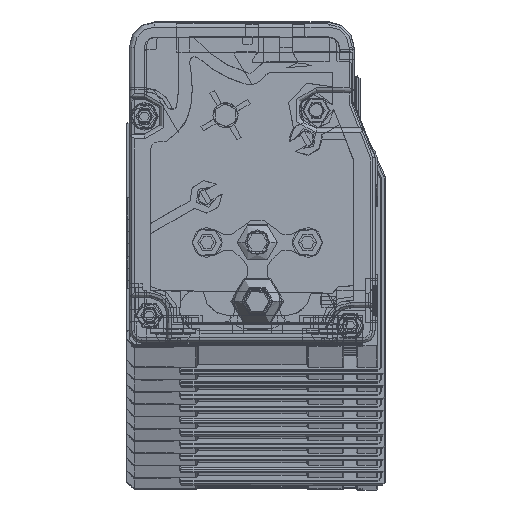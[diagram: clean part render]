
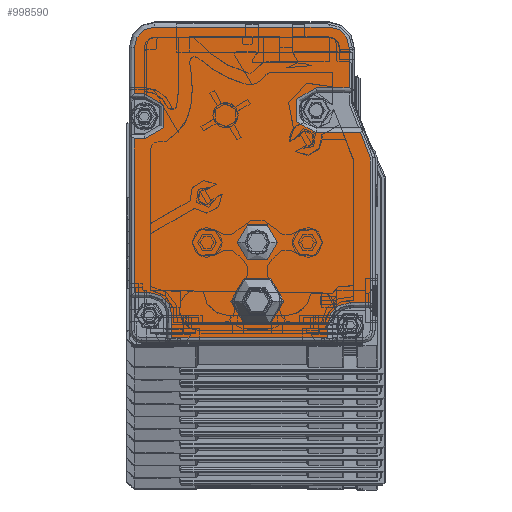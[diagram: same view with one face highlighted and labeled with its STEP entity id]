
A CAD part, top view. The second image highlights one B-rep face of the part: STEP entity #998590.
In plain terms, the highlighted planar face has unit normal (0, 0, 1).
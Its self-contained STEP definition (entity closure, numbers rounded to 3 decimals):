
#996480=CARTESIAN_POINT('',(-20.265,1.758,
4772.39));
#996490=DIRECTION('',(0.,0.,-1.));
#996500=DIRECTION('',(-1.,0.,0.));
#996510=AXIS2_PLACEMENT_3D('',#996480,#996490,#996500);
#996520=PLANE('',#996510);
#996530=CARTESIAN_POINT('',(-44.056,10.421,
4772.39));
#996540=DIRECTION('',(0.,0.,-1.));
#996550=DIRECTION('',(-1.,0.,0.));
#996560=AXIS2_PLACEMENT_3D('',#996530,#996540,#996550);
#996570=CIRCLE('',#996560,5.);
#996580=CARTESIAN_POINT('',(-49.056,10.421,
4772.39));
#996590=VERTEX_POINT('',#996580);
#996600=CARTESIAN_POINT('',(-39.056,10.421,
4772.39));
#996610=VERTEX_POINT('',#996600);
#996620=EDGE_CURVE('',#996590,#996610,#996570,.T.);
#996630=ORIENTED_EDGE('',*,*,#996620,.T.);
#996640=EDGE_CURVE('',#996610,#996590,#996570,.T.);
#996650=ORIENTED_EDGE('',*,*,#996640,.T.);
#996660=EDGE_LOOP('',(#996650,#996630));
#996670=FACE_BOUND('',#996660,.T.);
#996680=CARTESIAN_POINT('',(-44.059,22.124,
4772.39));
#996690=DIRECTION('',(0.,0.,1.));
#996700=DIRECTION('',(-1.,0.,0.));
#996710=AXIS2_PLACEMENT_3D('',#996680,#996690,#996700);
#996720=CIRCLE('',#996710,4.);
#996730=CARTESIAN_POINT('',(-40.059,22.124,
4772.39));
#996740=VERTEX_POINT('',#996730);
#996750=CARTESIAN_POINT('',(-48.059,22.124,
4772.39));
#996760=VERTEX_POINT('',#996750);
#996770=EDGE_CURVE('',#996740,#996760,#996720,.T.);
#996780=ORIENTED_EDGE('',*,*,#996770,.F.);
#996790=EDGE_CURVE('',#996760,#996740,#996720,.T.);
#996800=ORIENTED_EDGE('',*,*,#996790,.F.);
#996810=EDGE_LOOP('',(#996800,#996780));
#996820=FACE_BOUND('',#996810,.T.);
#996830=CARTESIAN_POINT('',(-61.059,2.124,
4772.39));
#996840=DIRECTION('',(0.,-1.,0.));
#996850=VECTOR('',#996840,1.);
#996860=LINE('',#996830,#996850);
#996870=CARTESIAN_POINT('',(-61.059,7.624,
4772.39));
#996880=VERTEX_POINT('',#996870);
#996890=CARTESIAN_POINT('',(-61.059,3.124,
4772.39));
#996900=VERTEX_POINT('',#996890);
#996910=EDGE_CURVE('',#996880,#996900,#996860,.T.);
#996920=ORIENTED_EDGE('',*,*,#996910,.T.);
#996930=CARTESIAN_POINT('',(-65.559,7.624,
4772.39));
#996940=DIRECTION('',(0.,0.,-1.));
#996950=DIRECTION('',(-1.,0.,0.));
#996960=AXIS2_PLACEMENT_3D('',#996930,#996940,#996950);
#996970=CIRCLE('',#996960,4.5);
#996980=CARTESIAN_POINT('',(-65.559,12.124,
4772.39));
#996990=VERTEX_POINT('',#996980);
#997000=EDGE_CURVE('',#996990,#996880,#996970,.T.);
#997010=ORIENTED_EDGE('',*,*,#997000,.T.);
#997020=CARTESIAN_POINT('',(-20.559,12.124,
4772.39));
#997030=DIRECTION('',(1.,0.,0.));
#997040=VECTOR('',#997030,1.);
#997050=LINE('',#997020,#997040);
#997060=CARTESIAN_POINT('',(-68.559,12.124,
4772.39));
#997070=VERTEX_POINT('',#997060);
#997080=EDGE_CURVE('',#997070,#996990,#997050,.T.);
#997090=ORIENTED_EDGE('',*,*,#997080,.T.);
#997100=CARTESIAN_POINT('',(-68.559,2.124,
4772.39));
#997110=DIRECTION('',(0.,-1.,0.));
#997120=VECTOR('',#997110,1.);
#997130=LINE('',#997100,#997120);
#997140=CARTESIAN_POINT('',(-68.559,42.727,
4772.39));
#997150=VERTEX_POINT('',#997140);
#997160=EDGE_CURVE('',#997150,#997070,#997130,.T.);
#997170=ORIENTED_EDGE('',*,*,#997160,.T.);
#997180=CARTESIAN_POINT('',(-20.559,42.727,
4772.39));
#997190=DIRECTION('',(-1.,0.,0.));
#997200=VECTOR('',#997190,1.);
#997210=LINE('',#997180,#997200);
#997220=CARTESIAN_POINT('',(-66.559,42.727,
4772.39));
#997230=VERTEX_POINT('',#997220);
#997240=EDGE_CURVE('',#997230,#997150,#997210,.T.);
#997250=ORIENTED_EDGE('',*,*,#997240,.T.);
#997260=CARTESIAN_POINT('',(-66.559,47.227,
4772.39));
#997270=DIRECTION('',(0.,0.,-1.));
#997280=DIRECTION('',(-1.,0.,0.));
#997290=AXIS2_PLACEMENT_3D('',#997260,#997270,#997280);
#997300=CIRCLE('',#997290,4.5);
#997310=CARTESIAN_POINT('',(-66.559,51.727,
4772.39));
#997320=VERTEX_POINT('',#997310);
#997330=EDGE_CURVE('',#997320,#997230,#997300,.T.);
#997340=ORIENTED_EDGE('',*,*,#997330,.T.);
#997350=CARTESIAN_POINT('',(-20.559,51.727,
4772.39));
#997360=DIRECTION('',(1.,0.,0.));
#997370=VECTOR('',#997360,1.);
#997380=LINE('',#997350,#997370);
#997390=CARTESIAN_POINT('',(-68.559,51.727,
4772.39));
#997400=VERTEX_POINT('',#997390);
#997410=EDGE_CURVE('',#997400,#997320,#997380,.T.);
#997420=ORIENTED_EDGE('',*,*,#997410,.T.);
#997430=CARTESIAN_POINT('',(-68.559,2.124,
4772.39));
#997440=DIRECTION('',(0.,-1.,0.));
#997450=VECTOR('',#997440,1.);
#997460=LINE('',#997430,#997450);
#997470=CARTESIAN_POINT('',(-68.559,61.024,
4772.39));
#997480=VERTEX_POINT('',#997470);
#997490=EDGE_CURVE('',#997480,#997400,#997460,.T.);
#997500=ORIENTED_EDGE('',*,*,#997490,.T.);
#997510=CARTESIAN_POINT('',(-64.559,61.024,
4772.39));
#997520=DIRECTION('',(0.,0.,1.));
#997530=DIRECTION('',(1.,0.,0.));
#997540=AXIS2_PLACEMENT_3D('',#997510,#997520,#997530);
#997550=CIRCLE('',#997540,4.);
#997560=CARTESIAN_POINT('',(-64.559,65.024,
4772.39));
#997570=VERTEX_POINT('',#997560);
#997580=EDGE_CURVE('',#997570,#997480,#997550,.T.);
#997590=ORIENTED_EDGE('',*,*,#997580,.T.);
#997600=CARTESIAN_POINT('',(-20.559,65.024,
4772.39));
#997610=DIRECTION('',(-1.,0.,0.));
#997620=VECTOR('',#997610,1.);
#997630=LINE('',#997600,#997620);
#997640=CARTESIAN_POINT('',(-29.759,65.024,
4772.39));
#997650=VERTEX_POINT('',#997640);
#997660=EDGE_CURVE('',#997650,#997570,#997630,.T.);
#997670=ORIENTED_EDGE('',*,*,#997660,.T.);
#997680=CARTESIAN_POINT('',(-29.759,61.024,
4772.39));
#997690=DIRECTION('',(0.,0.,1.));
#997700=DIRECTION('',(1.,0.,0.));
#997710=AXIS2_PLACEMENT_3D('',#997680,#997690,#997700);
#997720=CIRCLE('',#997710,4.);
#997730=CARTESIAN_POINT('',(-25.759,61.024,
4772.39));
#997740=VERTEX_POINT('',#997730);
#997750=EDGE_CURVE('',#997740,#997650,#997720,.T.);
#997760=ORIENTED_EDGE('',*,*,#997750,.T.);
#997770=CARTESIAN_POINT('',(-25.759,2.124,
4772.39));
#997780=DIRECTION('',(0.,1.,0.));
#997790=VECTOR('',#997780,1.);
#997800=LINE('',#997770,#997790);
#997810=CARTESIAN_POINT('',(-25.759,52.924,
4772.39));
#997820=VERTEX_POINT('',#997810);
#997830=EDGE_CURVE('',#997820,#997740,#997800,.T.);
#997840=ORIENTED_EDGE('',*,*,#997830,.T.);
#997850=CARTESIAN_POINT('',(-20.559,52.924,
4772.39));
#997860=DIRECTION('',(-1.,0.,0.));
#997870=VECTOR('',#997860,1.);
#997880=LINE('',#997850,#997870);
#997890=CARTESIAN_POINT('',(-32.309,52.924,
4772.39));
#997900=VERTEX_POINT('',#997890);
#997910=EDGE_CURVE('',#997820,#997900,#997880,.T.);
#997920=ORIENTED_EDGE('',*,*,#997910,.F.);
#997930=CARTESIAN_POINT('',(-32.309,48.424,
4772.39));
#997940=DIRECTION('',(0.,0.,-1.));
#997950=DIRECTION('',(-1.,0.,0.));
#997960=AXIS2_PLACEMENT_3D('',#997930,#997940,#997950);
#997970=CIRCLE('',#997960,4.5);
#997980=CARTESIAN_POINT('',(-32.309,43.924,
4772.39));
#997990=VERTEX_POINT('',#997980);
#998000=EDGE_CURVE('',#997990,#997900,#997970,.T.);
#998010=ORIENTED_EDGE('',*,*,#998000,.T.);
#998020=CARTESIAN_POINT('',(-20.559,43.924,
4772.39));
#998030=DIRECTION('',(-1.,0.,0.));
#998040=VECTOR('',#998030,1.);
#998050=LINE('',#998020,#998040);
#998060=CARTESIAN_POINT('',(-23.499,43.924,
4772.39));
#998070=VERTEX_POINT('',#998060);
#998080=EDGE_CURVE('',#998070,#997990,#998050,.T.);
#998090=ORIENTED_EDGE('',*,*,#998080,.T.);
#998100=CARTESIAN_POINT('',(-7.243,2.124,
4772.39));
#998110=DIRECTION('',(0.362,-0.932,0.));
#998120=VECTOR('',#998110,1.);
#998130=LINE('',#998100,#998120);
#998140=CARTESIAN_POINT('',(-21.559,38.937,
4772.39));
#998150=VERTEX_POINT('',#998140);
#998160=EDGE_CURVE('',#998070,#998150,#998130,.T.);
#998170=ORIENTED_EDGE('',*,*,#998160,.F.);
#998180=CARTESIAN_POINT('',(-21.559,2.124,
4772.39));
#998190=DIRECTION('',(0.,-1.,0.));
#998200=VECTOR('',#998190,1.);
#998210=LINE('',#998180,#998200);
#998220=CARTESIAN_POINT('',(-21.559,10.124,
4772.39));
#998230=VERTEX_POINT('',#998220);
#998240=EDGE_CURVE('',#998150,#998230,#998210,.T.);
#998250=ORIENTED_EDGE('',*,*,#998240,.F.);
#998260=CARTESIAN_POINT('',(-20.559,10.124,
4772.39));
#998270=DIRECTION('',(1.,0.,0.));
#998280=VECTOR('',#998270,1.);
#998290=LINE('',#998260,#998280);
#998300=CARTESIAN_POINT('',(-25.559,10.124,
4772.39));
#998310=VERTEX_POINT('',#998300);
#998320=EDGE_CURVE('',#998310,#998230,#998290,.T.);
#998330=ORIENTED_EDGE('',*,*,#998320,.T.);
#998340=CARTESIAN_POINT('',(-25.559,5.624,
4772.39));
#998350=DIRECTION('',(0.,0.,-1.));
#998360=DIRECTION('',(-1.,0.,0.));
#998370=AXIS2_PLACEMENT_3D('',#998340,#998350,#998360);
#998380=CIRCLE('',#998370,4.5);
#998390=CARTESIAN_POINT('',(-30.059,5.624,
4772.39));
#998400=VERTEX_POINT('',#998390);
#998410=EDGE_CURVE('',#998400,#998310,#998380,.T.);
#998420=ORIENTED_EDGE('',*,*,#998410,.T.);
#998430=CARTESIAN_POINT('',(-30.059,2.124,
4772.39));
#998440=DIRECTION('',(0.,1.,0.));
#998450=VECTOR('',#998440,1.);
#998460=LINE('',#998430,#998450);
#998470=CARTESIAN_POINT('',(-30.059,3.124,
4772.39));
#998480=VERTEX_POINT('',#998470);
#998490=EDGE_CURVE('',#998480,#998400,#998460,.T.);
#998500=ORIENTED_EDGE('',*,*,#998490,.T.);
#998510=CARTESIAN_POINT('',(-20.559,3.124,
4772.39));
#998520=DIRECTION('',(-1.,0.,0.));
#998530=VECTOR('',#998520,1.);
#998540=LINE('',#998510,#998530);
#998550=EDGE_CURVE('',#998480,#996900,#998540,.T.);
#998560=ORIENTED_EDGE('',*,*,#998550,.F.);
#998570=EDGE_LOOP('',(#998560,#998500,#998420,#998330,#998250,#998170,
#998090,#998010,#997920,#997840,#997760,#997670,#997590,#997500,#997420,
#997340,#997250,#997170,#997090,#997010,#996920));
#998580=FACE_OUTER_BOUND('',#998570,.T.);
#998590=ADVANCED_FACE('',(#996670,#996820,#998580),#996520,.F.);
